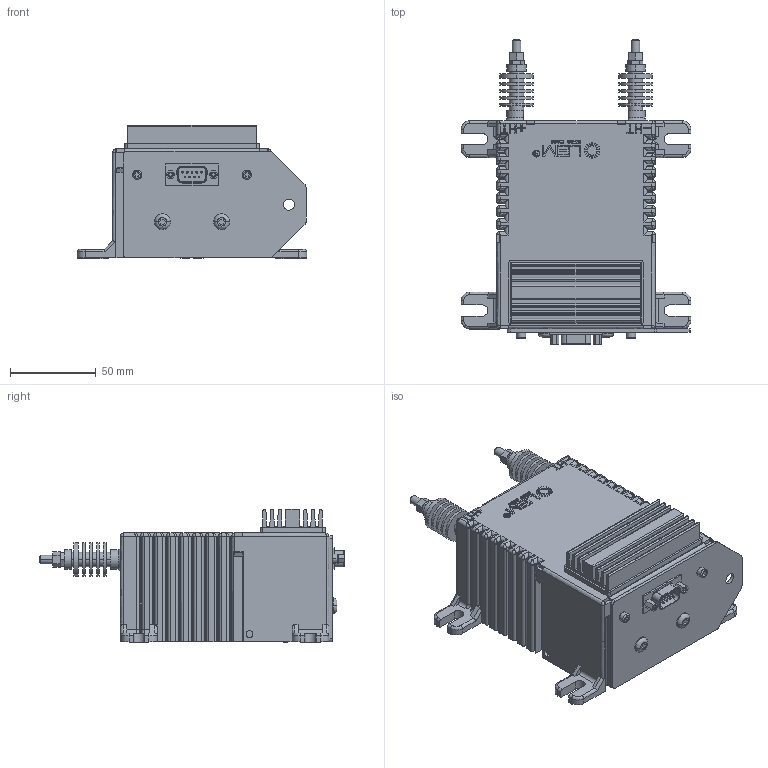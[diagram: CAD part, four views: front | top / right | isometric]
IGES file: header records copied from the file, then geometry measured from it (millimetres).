
Start section: Elysium IGES Interface
Global section: file name: C:\Documents and Settings\jdz\Desktop\CV 4-4000_SP1_blackbox.igs; native system: SolidDesigner 16.00A  16-Aug-2008; preprocessor: CoCreate IGES_3D V2.2; author: Unknown; organization: Unknown; date: 20090202.093957; units: millimetre
Bounding box: 134 x 177.69 x 77.6 mm (x, y, z)
Volume: 715001.4 mm3; surface area: 140202.7 mm2
Topology: 29 solids, 33 shells, 2645 faces, 7224 edges, 4676 vertices
Faces by surface type: bspline 2645
